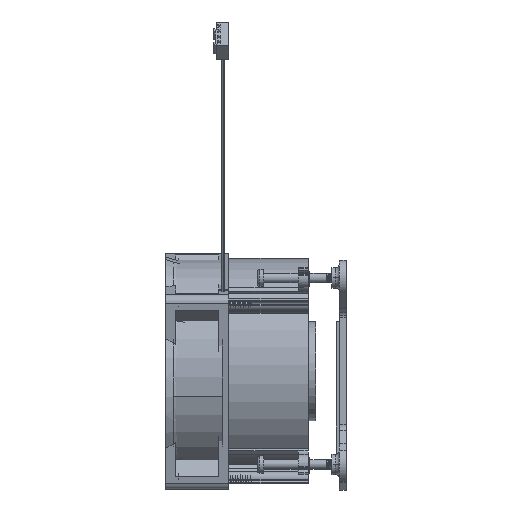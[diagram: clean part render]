
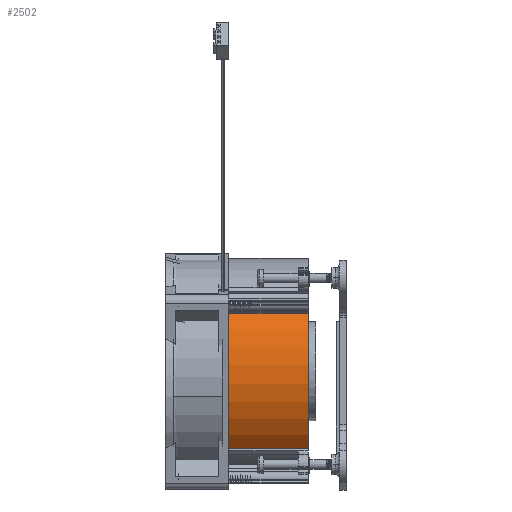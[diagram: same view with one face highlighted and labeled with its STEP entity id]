
A CAD part, left-side view. The second image highlights one B-rep face of the part: STEP entity #2502.
In plain terms, the highlighted cylindrical face has radius 45.1 mm (diameter 90.2 mm), a partial arc.
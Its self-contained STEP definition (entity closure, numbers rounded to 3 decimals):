
#100=CARTESIAN_POINT('',(1463.353,685.972,0.));
#101=DIRECTION('',(0.,-1.,0.));
#102=DIRECTION('',(-0.857,0.,0.515));
#103=AXIS2_PLACEMENT_3D('',#100,#101,#102);
#105=CARTESIAN_POINT('',(1463.353,717.972,0.));
#106=DIRECTION('',(0.,1.,0.));
#107=DIRECTION('',(-0.723,0.,-0.691));
#108=AXIS2_PLACEMENT_3D('',#105,#106,#107);
#1652=DIRECTION('',(0.,-1.,0.));
#1653=VECTOR('',#1652,32.);
#1654=CARTESIAN_POINT('',(1430.764,717.972,-31.176));
#1655=LINE('',#1654,#1653);
#1656=DIRECTION('',(0.,-1.,0.));
#1657=VECTOR('',#1656,32.);
#1658=CARTESIAN_POINT('',(1424.695,717.972,23.228));
#1659=LINE('',#1658,#1657);
#2338=CARTESIAN_POINT('',(1424.695,717.972,23.228));
#2339=CARTESIAN_POINT('',(1424.695,685.972,23.228));
#2340=VERTEX_POINT('',#2338);
#2341=VERTEX_POINT('',#2339);
#2342=CARTESIAN_POINT('',(1430.764,717.972,-31.176));
#2343=CARTESIAN_POINT('',(1430.764,685.972,-31.176));
#2344=VERTEX_POINT('',#2342);
#2345=VERTEX_POINT('',#2343);
#2487=CARTESIAN_POINT('',(1463.353,685.972,0.));
#2488=DIRECTION('',(0.,-1.,0.));
#2489=DIRECTION('',(1.,0.,0.));
#2490=AXIS2_PLACEMENT_3D('',#2487,#2488,#2489);
#2491=CYLINDRICAL_SURFACE('',#2490,45.1);
#2493=ORIENTED_EDGE('',*,*,#2492,.T.);
#2495=ORIENTED_EDGE('',*,*,#2494,.F.);
#2497=ORIENTED_EDGE('',*,*,#2496,.T.);
#2499=ORIENTED_EDGE('',*,*,#2498,.T.);
#2500=EDGE_LOOP('',(#2493,#2495,#2497,#2499));
#2501=FACE_OUTER_BOUND('',#2500,.F.);
#2502=ADVANCED_FACE('',(#2501),#2491,.T.);
#104=CIRCLE('',#103,45.1);
#109=CIRCLE('',#108,45.1);
#2492=EDGE_CURVE('',#2341,#2345,#104,.T.);
#2494=EDGE_CURVE('',#2344,#2345,#1655,.T.);
#2496=EDGE_CURVE('',#2344,#2340,#109,.T.);
#2498=EDGE_CURVE('',#2340,#2341,#1659,.T.);
